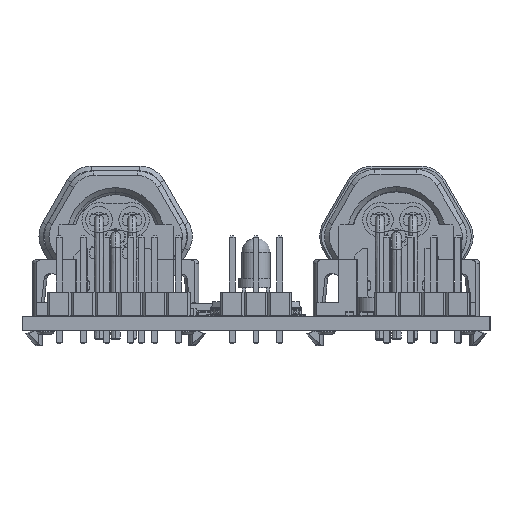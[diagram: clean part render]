
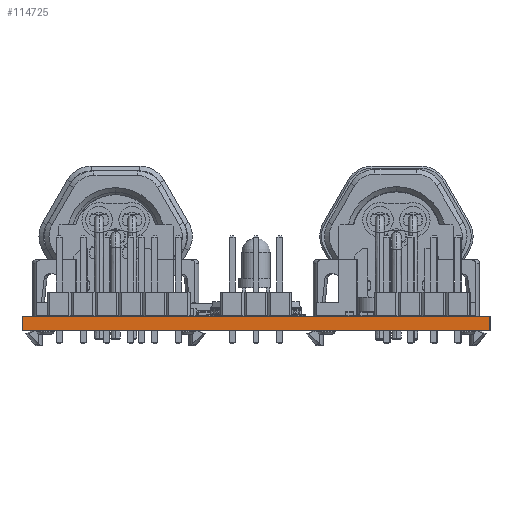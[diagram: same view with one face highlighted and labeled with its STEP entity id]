
A CAD part, left-side view. The second image highlights one B-rep face of the part: STEP entity #114725.
In plain terms, the highlighted planar face has unit normal (-1, 0, 0).
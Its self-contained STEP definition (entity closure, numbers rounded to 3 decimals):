
#114669 = VERTEX_POINT('',#114670);
#114670 = CARTESIAN_POINT('',(98.,-100.,1.51));
#114676 = EDGE_CURVE('',#114677,#114669,#114679,.T.);
#114677 = VERTEX_POINT('',#114678);
#114678 = CARTESIAN_POINT('',(98.,-100.,0.));
#114679 = LINE('',#114680,#114681);
#114680 = CARTESIAN_POINT('',(98.,-100.,0.));
#114681 = VECTOR('',#114682,1.);
#114682 = DIRECTION('',(0.,0.,1.));
#114725 = ADVANCED_FACE('',(#114726),#114751,.T.);
#114726 = FACE_BOUND('',#114727,.T.);
#114727 = EDGE_LOOP('',(#114728,#114729,#114737,#114745));
#114728 = ORIENTED_EDGE('',*,*,#114676,.T.);
#114729 = ORIENTED_EDGE('',*,*,#114730,.T.);
#114730 = EDGE_CURVE('',#114669,#114731,#114733,.T.);
#114731 = VERTEX_POINT('',#114732);
#114732 = CARTESIAN_POINT('',(98.,-50.,1.51));
#114733 = LINE('',#114734,#114735);
#114734 = CARTESIAN_POINT('',(98.,-100.,1.51));
#114735 = VECTOR('',#114736,1.);
#114736 = DIRECTION('',(0.,1.,0.));
#114737 = ORIENTED_EDGE('',*,*,#114738,.F.);
#114738 = EDGE_CURVE('',#114739,#114731,#114741,.T.);
#114739 = VERTEX_POINT('',#114740);
#114740 = CARTESIAN_POINT('',(98.,-50.,0.));
#114741 = LINE('',#114742,#114743);
#114742 = CARTESIAN_POINT('',(98.,-50.,0.));
#114743 = VECTOR('',#114744,1.);
#114744 = DIRECTION('',(0.,0.,1.));
#114745 = ORIENTED_EDGE('',*,*,#114746,.F.);
#114746 = EDGE_CURVE('',#114677,#114739,#114747,.T.);
#114747 = LINE('',#114748,#114749);
#114748 = CARTESIAN_POINT('',(98.,-100.,0.));
#114749 = VECTOR('',#114750,1.);
#114750 = DIRECTION('',(0.,1.,0.));
#114751 = PLANE('',#114752);
#114752 = AXIS2_PLACEMENT_3D('',#114753,#114754,#114755);
#114753 = CARTESIAN_POINT('',(98.,-100.,0.));
#114754 = DIRECTION('',(-1.,0.,0.));
#114755 = DIRECTION('',(0.,1.,0.));
